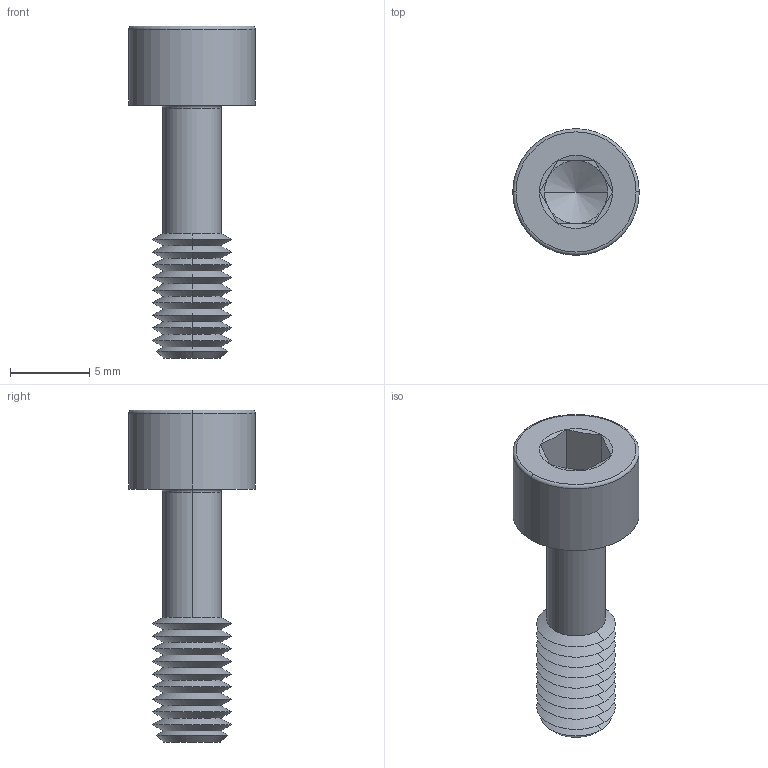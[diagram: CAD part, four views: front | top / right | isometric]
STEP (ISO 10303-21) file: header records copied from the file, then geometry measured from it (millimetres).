
FILE_DESCRIPTION (( 'STEP AP203' ), '1' );
FILE_NAME ('P0154.050-016-BL.step', '2024-06-17T11:26:27', ( '' ), ( '' ), 'SwSTEP 2.0', 'SolidWorks 2019', '' );
FILE_SCHEMA (( 'CONFIG_CONTROL_DESIGN' ));
Length unit declared in the file: millimetre
Products named in the file (1): P0154.050-016-BL
Bounding box: 8 x 8 x 21 mm (x, y, z)
Volume: 392.9 mm3; surface area: 582.8 mm2
Topology: 1 solids, 1 shells, 71 faces, 144 edges, 75 vertices
Faces by surface type: cone 48, plane 15, torus 4, cylinder 4
Entity records: 1887 total; most frequent: DIRECTION 352, CARTESIAN_POINT 315, ORIENTED_EDGE 284, AXIS2_PLACEMENT_3D 144, EDGE_CURVE 142, VERTEX_POINT 75, EDGE_LOOP 73, CIRCLE 72
